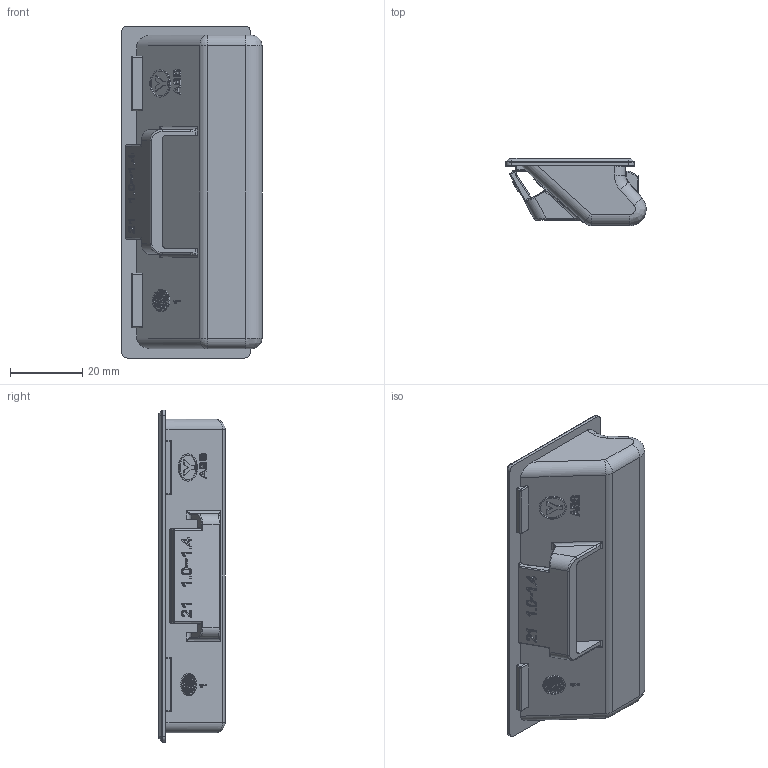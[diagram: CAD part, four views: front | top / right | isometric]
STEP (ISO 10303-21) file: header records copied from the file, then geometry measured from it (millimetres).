
FILE_DESCRIPTION((''),'2;1');
FILE_NAME('3306-21','2015-05-08T',('Administrator'),(''),'PRO/ENGINEER BY PARAMETRIC TECHNOLOGY CORPORATION, 2012230','PRO/ENGINEER BY PARAMETRIC TECHNOLOGY CORPORATION, 2012230','');
FILE_SCHEMA(('CONFIG_CONTROL_DESIGN','GEOMETRIC_VALIDATION_PROPERTIES_MIM'));
Products named in the file (1): 3306-21
Bounding box: 38.79 x 18.5 x 91.8 mm (x, y, z)
Volume: 13852.3 mm3; surface area: 14516.1 mm2
Topology: 1 solids, 1 shells, 968 faces, 2561 edges, 1638 vertices
Faces by surface type: bspline 456, plane 325, cylinder 143, torus 30, sphere 14
Entity records: 49775 total; most frequent: CARTESIAN_POINT 28403, ORIENTED_EDGE 5084, DIRECTION 3227, EDGE_CURVE 2542, VERTEX_POINT 1638, VECTOR 1291, LINE 1291, EDGE_LOOP 1032
